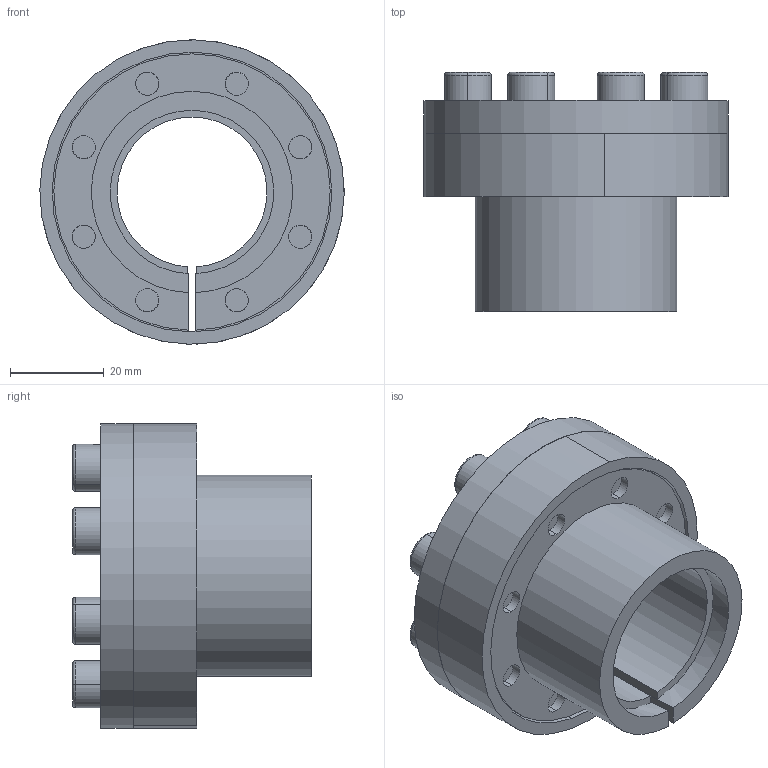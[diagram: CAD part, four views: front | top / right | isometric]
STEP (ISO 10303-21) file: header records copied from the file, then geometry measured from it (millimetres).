
FILE_DESCRIPTION (( 'STEP AP214' ), '1' );
FILE_NAME ('CONEX-B-32x43.step', '2024-12-12T14:20:15', ( '' ), ( '' ), 'SwSTEP 2.0', 'SolidWorks 2023', '' );
FILE_SCHEMA (( 'AUTOMOTIVE_DESIGN' ));
Length unit declared in the file: millimetre
Products named in the file (5): CONEX-B-32x43; PART2.CN-55-021; PART1.CN-55-021; PART3.CN-55-021; 1VV5931EM06018_1VV5931EM06018
Assembly tree (11 placements, depth 2):
  CONEX-B-32x43
    PART1.CN-55-021
    PART2.CN-55-021
    PART3.CN-55-021
    1VV5931EM06018_1VV5931EM06018  x8
Bounding box: 64.99 x 51.01 x 65 mm (x, y, z)
Volume: 60179.5 mm3; surface area: 40206.4 mm2
Topology: 11 solids, 11 shells, 281 faces, 641 edges, 382 vertices
Faces by surface type: plane 132, cylinder 80, cone 36, torus 33
Entity records: 3134 total; most frequent: DIRECTION 568, CARTESIAN_POINT 520, ORIENTED_EDGE 466, AXIS2_PLACEMENT_3D 235, EDGE_CURVE 233, VERTEX_POINT 151, EDGE_LOOP 136, CIRCLE 129
